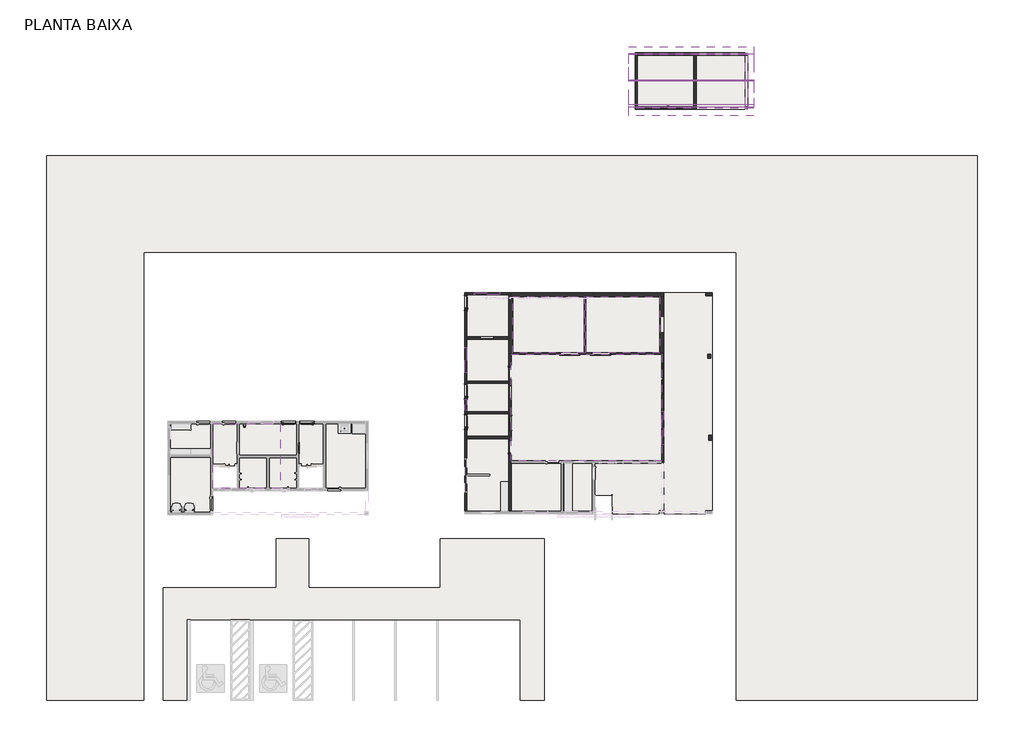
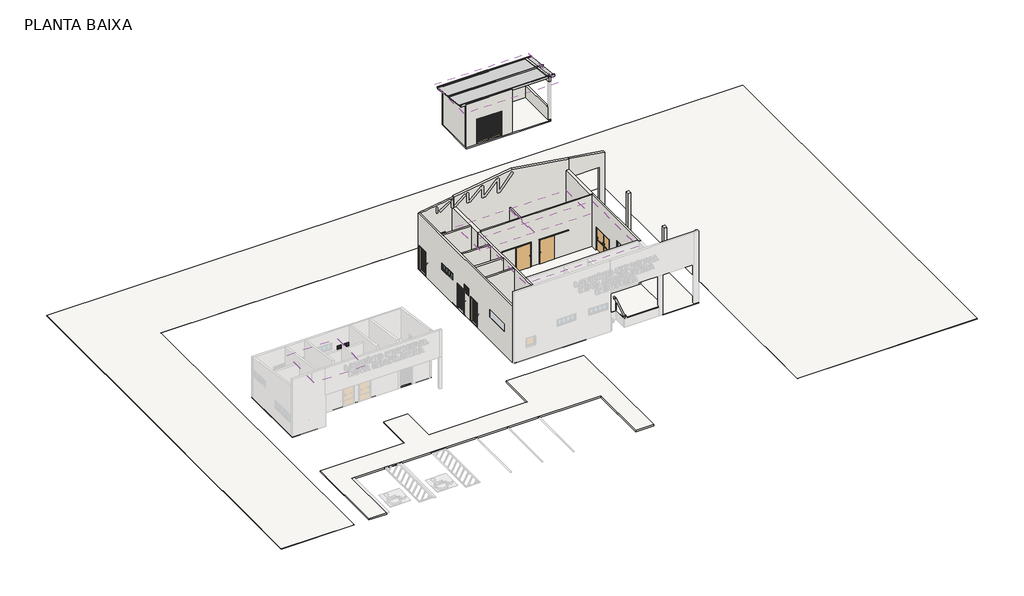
# One storey, part 2 of 4: 23 walls, 16 doors, 8 slabs, 4 coverings, 4 windows, 3 members, 3 plates, 1 roof.
"""IFC4 building model written with IfcOpenShell, lengths in millimetres."""

from ifc_helpers import new_model, si_unit, frame, origin, place, context, project, spatial, polyline, outline, extrude, faceted_brep, transform, mapped, element, save
from components import door_47245ebf, door_ed2cd844, door_5e27b62a, door_2b51e286, door_abbd5f23, door_200x210_7cfe1a8b, door_200x210_8054a352, door_4_panel_stacking_4a8a8c32, fr_pvc_panneau_plein_103_x_210_100_2_cbfb355a, fr_pvc_panneau_plein_63_x_210_60_2_2560e39d, fr_pvc_panneau_plein_83_x_210_80_e6f7e799, rectangular_mullion_acc46a1c, rectangular_mullion_ec073536, rectangular_mullion_255870b8, empty_system_panel_empty_df440034, empty_system_panel_empty_db0e6698, empty_system_panel_empty_3e2f795e, window_3d062184, window_6059a996, window_b42098c8

model = new_model("IFC4")

# Units and contexts
model_context = context("Model", 3, world=origin())
ifc_project = project(units=[si_unit("LENGTHUNIT", "METRE", prefix="MILLI")], contexts=[model_context])

# Site, building, storey
site = spatial("IfcSite", under=ifc_project)
building = spatial("IfcBuilding", under=site)
storey = spatial("IfcBuildingStorey", under=building, Name="PLANTA BAIXA", Elevation=150.0)

# Coverings
placement = place(None, origin())
element("IfcCovering", 1, ObjectType=". FORRO ISOPAINEL", at=placement, inside=storey, context=model_context, shape_type="SweptSolid", body=[
    extrude(outline(polyline([(-923.1798161, 6018.8563425), (-923.1798161, 9518.8563425), (3525.8682467, 9518.8563425), (3525.8682467, 6018.8563425), (-923.1798161, 6018.8563425)])), frame((0.0, 0.0, 2950.0), z_axis=(0.0, 0.0, 1.0), x_axis=(1.0, 0.0, 0.0)), (0.0, 0.0, 1.0), 100.0),
])
element("IfcCovering", 2, ObjectType=". FORRO ISOPAINEL", at=placement, inside=storey, context=model_context, shape_type="SweptSolid", body=[
    extrude(outline(polyline([(3625.8682467, 6018.8563425), (3625.8682467, 9518.8563425), (8225.8682467, 9518.8563425), (8225.8682467, 6018.8563425), (3625.8682467, 6018.8563425)])), frame((0.0, 0.0, 2950.0), z_axis=(0.0, 0.0, 1.0), x_axis=(1.0, 0.0, 0.0)), (0.0, 0.0, 1.0), 100.0),
])
element("IfcCovering", 3, ObjectType="FORRO PVC", at=placement, inside=storey, context=model_context, shape_type="SweptSolid", body=[
    extrude(outline(polyline([(-1173.1798161, 7016.7588383), (-3773.1798161, 7016.7588383), (-3773.1798161, 9618.8563425), (-1173.1798161, 9618.8563425), (-1173.1798161, 7016.7588383)])), frame((0.0, 0.0, 4150.0), z_axis=(0.0, 0.0, 1.0), x_axis=(1.0, 0.0, 0.0)), (0.0, 0.0, 1.0), 37.0),
    extrude(outline(polyline([(-1173.1798161, 4266.3563425), (-3773.1798161, 4266.3563425), (-3773.1798161, 6866.7588383), (-1173.1798161, 6866.7588383), (-1173.1798161, 4266.3563425)])), frame((0.0, 0.0, 4150.0), z_axis=(0.0, 0.0, 1.0), x_axis=(1.0, 0.0, 0.0)), (0.0, 0.0, 1.0), 37.0),
    extrude(outline(polyline([(-1173.1798161, 2366.7588383), (-3773.1798161, 2366.7588383), (-3773.1798161, 4116.3563425), (-1173.1798161, 4116.3563425), (-1173.1798161, 2366.7588383)])), frame((0.0, 0.0, 4150.0), z_axis=(0.0, 0.0, 1.0), x_axis=(1.0, 0.0, 0.0)), (0.0, 0.0, 1.0), 37.0),
    extrude(outline(polyline([(-1173.1798161, 816.7588383), (-3773.1798161, 816.7588383), (-3773.1798161, 2216.7588383), (-1173.1798161, 2216.7588383), (-1173.1798161, 816.7588383)])), frame((0.0, 0.0, 4150.0), z_axis=(0.0, 0.0, 1.0), x_axis=(1.0, 0.0, 0.0)), (0.0, 0.0, 1.0), 37.0),
    extrude(outline(polyline([(-3773.1798161, 666.7588383), (-1173.1798161, 666.7588383), (-1173.1798161, -3838.2411617), (-3773.1798161, -3838.2411617), (-3773.1798161, 666.7588383)])), frame((0.0, 0.0, 4150.0), z_axis=(0.0, 0.0, 1.0), x_axis=(1.0, 0.0, 0.0)), (0.0, 0.0, 1.0), 37.0),
    extrude(outline(polyline([(2076.8201839, -3838.2411617), (-1023.1798161, -3838.2411617), (-1023.1798161, -843.2411617), (2076.8201839, -843.2411617), (2076.8201839, -3838.2411617)])), frame((0.0, 0.0, 4150.0), z_axis=(0.0, 0.0, 1.0), x_axis=(1.0, 0.0, 0.0)), (0.0, 0.0, 1.0), 37.0),
    extrude(outline(polyline([(4026.8201839, -843.2411617), (4026.8201839, -3838.2411617), (2226.8201839, -3838.2411617), (2226.8201839, -843.2411617), (4026.8201839, -843.2411617)])), frame((0.0, 0.0, 4150.0), z_axis=(0.0, 0.0, 1.0), x_axis=(1.0, 0.0, 0.0)), (0.0, 0.0, 1.0), 37.0),
    extrude(outline(polyline([(8325.8682467, -693.2411617), (-1023.1798161, -693.2411617), (-1023.1798161, 5918.8563425), (8325.8682467, 5918.8563425), (8325.8682467, -693.2411617)])), frame((0.0, 0.0, 4150.0), z_axis=(0.0, 0.0, 1.0), x_axis=(1.0, 0.0, 0.0)), (0.0, 0.0, 1.0), 37.0),
    extrude(outline(polyline([(8325.8682467, -843.2411617), (8325.8682467, -3838.2411617), (4176.8201839, -3838.2411617), (4176.8201839, -843.2411617), (8325.8682467, -843.2411617)])), frame((0.0, 0.0, 4150.0), z_axis=(0.0, 0.0, 1.0), x_axis=(1.0, 0.0, 0.0)), (0.0, 0.0, 1.0), 37.0),
])
element("IfcCovering", 4, ObjectType="FORRO PVC", at=placement, inside=storey, context=model_context, shape_type="SweptSolid", body=[
    extrude(outline(polyline([(-12573.1798161, -2403.2411617), (-12573.1798161, 1600.6280604), (-10073.1798161, 1600.6280604), (-10073.1798161, -2403.2411617), (-12573.1798161, -2403.2411617)])), frame((0.0, 0.0, 2950.0), z_axis=(0.0, 0.0, 1.0), x_axis=(1.0, 0.0, 0.0)), (0.0, 0.0, 1.0), 37.0),
    extrude(outline(polyline([(-15223.1798161, 1600.6280604), (-12723.1798161, 1600.6280604), (-12723.1798161, -2403.2411617), (-15223.1798161, -2403.2411617), (-15223.1798161, 1600.6280604)])), frame((0.0, 0.0, 2950.0), z_axis=(0.0, 0.0, 1.0), x_axis=(1.0, 0.0, 0.0)), (0.0, 0.0, 1.0), 37.0),
    extrude(outline(polyline([(-19573.1798161, -2403.2411617), (-19573.1798161, 1600.6280604), (-15373.1798161, 1600.6280604), (-15373.1798161, -2403.2411617), (-19573.1798161, -2403.2411617)])), frame((0.0, 0.0, 2950.0), z_axis=(0.0, 0.0, 1.0), x_axis=(1.0, 0.0, 0.0)), (0.0, 0.0, 1.0), 37.0),
    extrude(outline(polyline([(-22223.1798161, 1600.6280604), (-19723.1798161, 1600.6280604), (-19723.1798161, -3903.2411617), (-22223.1798161, -3903.2411617), (-22223.1798161, 1600.6280604)])), frame((0.0, 0.0, 2950.0), z_axis=(0.0, 0.0, 1.0), x_axis=(1.0, 0.0, 0.0)), (0.0, 0.0, 1.0), 37.0),
    extrude(outline(polyline([(-19573.1798161, -2553.2411617), (-12723.1798161, -2553.2411617), (-9923.1798161, -2553.2411617), (-9923.1798161, -3903.2411617), (-19573.1798161, -3903.2411617), (-19573.1798161, -2553.2411617)])), frame((0.0, 0.0, 2950.0), z_axis=(0.0, 0.0, 1.0), x_axis=(1.0, 0.0, 0.0)), (0.0, 0.0, 1.0), 37.0),
])

# Doors
door_shape = door_47245ebf(model_context)
element("IfcDoor", 5, ObjectType="PORTA VENEZIANA PARAMÉTRICA : VENEZIANA 80X210", at=placement, inside=storey, context=model_context, shape_type="MappedRepresentation", body=[
    mapped(door_shape, transform((-3848.1798161, 1716.7588383, 150.0), x_axis=(0.0, -1.0, 0.0), y_axis=(1.0, 0.0, 0.0), z_axis=(0.0, 0.0, 1.0))),
])
element("IfcDoor", 6, ObjectType="PORTA VENEZIANA PARAMÉTRICA : VENEZIANA 80X210", at=placement, inside=storey, context=model_context, shape_type="MappedRepresentation", body=[
    mapped(door_shape, transform((-3848.1798161, 3616.3563425, 150.0), x_axis=(0.0, -1.0, 0.0), y_axis=(1.0, 0.0, 0.0), z_axis=(0.0, 0.0, 1.0))),
])
element("IfcDoor", 7, ObjectType="PORTA VENEZIANA PARAMÉTRICA : VENEZIANA 80X210", at=placement, inside=storey, context=model_context, shape_type="MappedRepresentation", body=[
    mapped(door_shape, transform((-3848.1798161, 9118.8563425, 150.0), x_axis=(0.0, -1.0, 0.0), y_axis=(1.0, 0.0, 0.0), z_axis=(0.0, 0.0, 1.0))),
])
door_2_shape = door_ed2cd844(model_context)
element("IfcDoor", 8, ObjectType="PORTA VENEZIANA PARAMÉTRICA : .VENEZIANA 90X210 2", at=placement, inside=storey, context=model_context, shape_type="MappedRepresentation", body=[
    mapped(door_2_shape, transform((-1098.1798161, 116.7588383, 150.0), x_axis=(0.0, -1.0, 0.0), y_axis=(1.0, 0.0, 0.0), z_axis=(0.0, 0.0, 1.0))),
])
element("IfcDoor", 9, ObjectType="PORTA VENEZIANA PARAMÉTRICA : .VENEZIANA 90X210 2", at=placement, inside=storey, context=model_context, shape_type="MappedRepresentation", body=[
    mapped(door_shape, transform((-1098.1798161, 4816.7588383, 150.0), x_axis=(0.0, 1.0, 0.0), y_axis=(-1.0, 0.0, 0.0), z_axis=(0.0, 0.0, 1.0))),
])
door_3_shape = door_5e27b62a(model_context)
element("IfcDoor", 10, ObjectType="M_Porta-De_Correr-Pormade-Porta_Lisa : .porta correr isopainel", at=placement, inside=storey, context=model_context, shape_type="MappedRepresentation", body=[
    mapped(door_3_shape, transform((4555.8682467, 5968.8563425, 150.0), x_axis=(-1.0, 0.0, 0.0), y_axis=(0.0, -1.0, 0.0), z_axis=(0.0, 0.0, 1.0))),
])
door_4_shape = door_2b51e286(model_context)
element("IfcDoor", 11, ObjectType="M_Porta-De_Correr-Pormade-Porta_Lisa : .porta correr isopainel", at=placement, inside=storey, context=model_context, shape_type="MappedRepresentation", body=[
    mapped(door_4_shape, transform((2595.8682467, 5968.8563425, 150.0), x_axis=(1.0, 0.0, 0.0), y_axis=(0.0, 1.0, 0.0), z_axis=(0.0, 0.0, 1.0))),
])
door_5_shape = door_abbd5f23(model_context)
element("IfcDoor", 12, ObjectType="Porta-Passagem-Única-Nivelada-Dupla_Agindo : Porta-Passagem-Única-Nivelada-Dupla_Agindo", at=placement, inside=storey, context=model_context, shape_type="MappedRepresentation", body=[
    mapped(door_5_shape, transform((-1091.8298161, 1666.7588383, 150.0), x_axis=(0.0, 1.0, 0.0), y_axis=(-1.0, 0.0, 0.0), z_axis=(0.0, 0.0, 1.0))),
])
element("IfcDoor", 13, ObjectType="PORTA VENEZIANA PARAMÉTRICA : VENEZIANA 80X210", at=placement, inside=storey, context=model_context, shape_type="MappedRepresentation", body=[
    mapped(door_shape, transform((-14873.1798161, 1675.6280604, 150.0), x_axis=(-1.0, 0.0, 0.0), y_axis=(0.0, -1.0, 0.0), z_axis=(0.0, 0.0, 1.0))),
])
element("IfcDoor", 14, ObjectType="PORTA VENEZIANA PARAMÉTRICA : VENEZIANA 80X210", at=placement, inside=storey, context=model_context, shape_type="MappedRepresentation", body=[
    mapped(door_2_shape, transform((-13723.1798161, 1675.6280604, 150.0), x_axis=(1.0, 0.0, 0.0), y_axis=(0.0, 1.0, 0.0), z_axis=(0.0, 0.0, 1.0))),
])
door_200x210_shape = door_200x210_7cfe1a8b(model_context)
door_200x210_2_shape = door_200x210_8054a352(model_context)
element("IfcDoor", 15, ObjectType="Porta Corta Fogo 2 Folhas : 200x210", at=placement, inside=storey, context=model_context, shape_type="MappedRepresentation", body=[
    mapped(door_200x210_shape, transform((8400.8682467, 4418.8563425, 75.0), x_axis=(0.0, 1.0, 0.0), y_axis=(-1.0, 0.0, 0.0), z_axis=(0.0, 0.0, 1.0))),
    mapped(door_200x210_2_shape, transform((8400.8682467, 4418.8563425, 75.0), x_axis=(0.0, 1.0, 0.0), y_axis=(-1.0, 0.0, 0.0), z_axis=(0.0, 0.0, 1.0))),
])
door_4_panel_stacking_shape = door_4_panel_stacking_4a8a8c32(model_context)
element("IfcDoor", 16, ObjectType="PORTA VENEZIANA 2 PAINÉIS ABRIR PARAMÉTRICA1 : 4 Panel Stacking", at=placement, inside=storey, context=model_context, shape_type="MappedRepresentation", body=[
    mapped(door_4_panel_stacking_shape, transform((8578.4025194, 21243.848405, 230.0), x_axis=(1.0, 0.0, 0.0), y_axis=(0.0, 1.0, 0.0), z_axis=(0.0, 0.0, 1.0))),
])
fr_pvc_panneau_plein_103_x_210_100_2_shape = fr_pvc_panneau_plein_103_x_210_100_2_cbfb355a(model_context)
element("IfcDoor", 17, ObjectType="FR_PVC Panneau Plein : 103 x 210 - (100) 2", at=placement, inside=storey, context=model_context, shape_type="MappedRepresentation", body=[
    mapped(fr_pvc_panneau_plein_103_x_210_100_2_shape, transform((8354.661817, 7768.8563425, 1250.0), x_axis=(0.0, -1.0, 0.0), y_axis=(1.0, 0.0, 0.0), z_axis=(0.0, 0.0, 1.0))),
])
fr_pvc_panneau_plein_63_x_210_60_2_shape = fr_pvc_panneau_plein_63_x_210_60_2_2560e39d(model_context)
element("IfcDoor", 18, ObjectType="FR_PVC Panneau Plein : 63 x 210 - (60) 2", at=placement, inside=storey, context=model_context, shape_type="MappedRepresentation", body=[
    mapped(fr_pvc_panneau_plein_63_x_210_60_2_shape, transform((-14301.9733863, 96.7588383, 950.0), x_axis=(0.0, 1.0, 0.0), y_axis=(-1.0, 0.0, 0.0), z_axis=(0.0, 0.0, 1.0))),
])
fr_pvc_panneau_plein_83_x_210_80_shape = fr_pvc_panneau_plein_83_x_210_80_e6f7e799(model_context)
element("IfcDoor", 19, ObjectType="FR_PVC Panneau Plein : 83 x 210 - (80)", at=placement, inside=storey, context=model_context, shape_type="MappedRepresentation", body=[
    mapped(fr_pvc_panneau_plein_83_x_210_80_shape, transform((-2523.1798161, 6945.5524085, 1150.0), x_axis=(1.0, 0.0, 0.0), y_axis=(0.0, 1.0, 0.0), z_axis=(0.0, 0.0, 1.0))),
])
element("IfcDoor", 20, ObjectType="FR_PVC Panneau Plein : 83 x 210 - (80)", at=placement, inside=storey, context=model_context, shape_type="MappedRepresentation", body=[
    mapped(fr_pvc_panneau_plein_83_x_210_80_shape, transform((-1094.3862459, 3566.3563425, 1150.0), x_axis=(0.0, -1.0, 0.0), y_axis=(1.0, 0.0, 0.0), z_axis=(0.0, 0.0, 1.0))),
])

# Members
rectangular_mullion_shape = rectangular_mullion_acc46a1c(model_context)
element("IfcMember", 21, ObjectType="Rectangular Mullion : CONTRA-FRECHAL 6X15 cm", at=placement, inside=storey, context=model_context, shape_type="MappedRepresentation", body=[
    mapped(rectangular_mullion_shape, transform((6278.4025194, 24593.8563425, 3449.4978015), x_axis=(0.0, 0.9928768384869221, -0.11914522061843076), y_axis=(0.0, -0.11914522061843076, -0.9928768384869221), z_axis=(-1.0, 0.0, 0.0))),
])
rectangular_mullion_2_shape = rectangular_mullion_ec073536(model_context)
element("IfcMember", 22, ObjectType="Rectangular Mullion : TERÇA APARELHADA 6X15 cm", at=placement, inside=storey, context=model_context, shape_type="MappedRepresentation", body=[
    mapped(rectangular_mullion_2_shape, transform((14078.4025194, 21243.8563425, 3851.4978015), x_axis=(0.0, -0.9928768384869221, 0.11914522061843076), y_axis=(0.0, -0.11914522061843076, -0.9928768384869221), z_axis=(1.0, 0.0, 0.0))),
])
rectangular_mullion_3_shape = rectangular_mullion_255870b8(model_context)
element("IfcMember", 23, ObjectType="Rectangular Mullion : TERÇA APARELHADA 6X15 cm", at=placement, inside=storey, context=model_context, shape_type="MappedRepresentation", body=[
    mapped(rectangular_mullion_3_shape, transform((14078.4025194, 22955.609559, 3646.0874155), x_axis=(0.0, -0.9928768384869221, 0.11914522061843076), y_axis=(0.0, -0.11914522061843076, -0.9928768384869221), z_axis=(1.0, 0.0, 0.0))),
])

# Plates
empty_system_panel_empty_shape = empty_system_panel_empty_df440034(model_context)
element("IfcPlate", 24, ObjectType="Empty System Panel : Empty", at=placement, inside=storey, context=model_context, shape_type="MappedRepresentation", body=[
    mapped(empty_system_panel_empty_shape, transform((10178.4025194, 24593.8563425, 3449.4978015), x_axis=(-1.0, 0.0, 0.0), y_axis=(0.0, -0.11914522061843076, -0.9928768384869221), z_axis=(0.0, -0.9928768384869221, 0.11914522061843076))),
])
empty_system_panel_empty_2_shape = empty_system_panel_empty_db0e6698(model_context)
element("IfcPlate", 25, ObjectType="Empty System Panel : Empty", at=placement, inside=storey, context=model_context, shape_type="MappedRepresentation", body=[
    mapped(empty_system_panel_empty_2_shape, transform((10178.4025194, 22925.8232539, 3649.6617721), x_axis=(-1.0, 0.0, 0.0), y_axis=(0.0, -0.11914522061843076, -0.9928768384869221), z_axis=(0.0, -0.9928768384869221, 0.11914522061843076))),
])
empty_system_panel_empty_3_shape = empty_system_panel_empty_3e2f795e(model_context)
element("IfcPlate", 26, ObjectType="Empty System Panel : Empty", at=placement, inside=storey, context=model_context, shape_type="MappedRepresentation", body=[
    mapped(empty_system_panel_empty_3_shape, transform((10178.4025194, 21466.2943013, 3824.8052464), x_axis=(-1.0, 0.0, 0.0), y_axis=(0.0, -0.11914522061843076, -0.9928768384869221), z_axis=(0.0, -0.9928768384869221, 0.11914522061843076))),
])

# Roof
element("IfcRoof", 27, ObjectType="TELHA FIBROCIMENTO", at=placement, inside=storey, context=model_context, shape_type="SweptSolid", body=[
    extrude(outline(polyline([(20768.8563425, 4116.5021985), (25068.8563425, 3600.5021985), (25068.8563425, 3530.0), (20768.8563425, 4046.0), (20768.8563425, 4116.5021985)])), frame((6278.4025194, 0.0, 0.0), z_axis=(1.0, 0.0, 0.0), x_axis=(0.0, 1.0, 0.0)), (0.0, 0.0, 1.0), 7800.0),
])

# Slabs
element("IfcSlab", 28, ObjectType=".brita  3 cm 2", at=placement, inside=storey, context=model_context, shape_type="SweptSolid", body=[
    extrude(outline(polyline([(12976.8201839, 12268.8563425), (-23873.1798161, 12268.8563425), (-23873.1798161, -15581.0235359), (-29923.5222276, -15581.0235359), (-29923.5222276, 18268.8563425), (27976.8201839, 18268.8563425), (27976.8201839, -15581.0235359), (12976.8201839, -15581.0235359), (12976.8201839, 12268.8563425)])), frame((0.0, 0.0, -70.0), z_axis=(0.0, 0.0, 1.0), x_axis=(1.0, 0.0, 0.0)), (0.0, 0.0, 1.0), 20.0),
])
element("IfcSlab", 29, ObjectType="CALÇADA CONCRETO DESEMPENADO", at=placement, inside=storey, context=model_context, shape_type="SweptSolid", body=[
    extrude(outline(polyline([(-15623.1798161, -8581.0235359), (-15623.1798161, -5533.2411617), (-13623.1798161, -5533.2411617), (-13623.1798161, -8581.0235359), (-5423.1798161, -8581.0235359), (-5423.1798161, -5533.2411617), (1034.1777724, -5533.2411617), (1034.1777724, -15581.0235359), (-465.8222276, -15581.0235359), (-465.8222276, -10581.0235359), (-21173.0222276, -10581.0235359), (-21173.0222276, -15581.0235359), (-22673.0222276, -15581.0235359), (-22673.0222276, -8581.0235359), (-15623.1798161, -8581.0235359)])), frame((0.0, 0.0, -50.0), z_axis=(0.0, 0.0, 1.0), x_axis=(1.0, 0.0, 0.0)), (0.0, 0.0, 1.0), 100.0),
])
element("IfcSlab", 30, ObjectType="PISO  5 cm", at=placement, inside=storey, context=model_context, shape_type="SweptSolid", body=[
    extrude(outline(polyline([(-9923.1798161, -2553.2411617), (-12723.1798161, -2553.2411617), (-12723.1798161, -1003.2411617), (-14223.1798161, -1003.2411617), (-14223.1798161, -2553.2411617), (-18073.1798161, -2553.2411617), (-18073.1798161, -1003.2411617), (-19573.1798161, -1003.2411617), (-19573.1798161, -4053.2411617), (-22373.1798161, -4053.2411617), (-22373.1798161, 1750.6280604), (-9923.1798161, 1750.6280604), (-9923.1798161, -2553.2411617)])), frame((0.0, 0.0, 100.0), z_axis=(0.0, 0.0, 1.0), x_axis=(1.0, 0.0, 0.0)), (0.0, 0.0, 1.0), 50.0),
])
element("IfcSlab", 31, ObjectType=".PISO GRANILITE  5 cm 2", at=placement, inside=storey, context=model_context, shape_type="SweptSolid", body=[
    extrude(outline(polyline([(4176.8201839, -843.2411617), (8475.8682467, -843.2411617), (8475.8682467, -3788.2411617), (8175.8682467, -3788.2411617), (8175.8682467, -3988.2411617), (5276.8201839, -3988.2411617), (5276.8201839, -2833.2411617), (4176.8201839, -2833.2411617), (4176.8201839, -843.2411617)])), frame((0.0, 0.0, 850.0), z_axis=(0.0, 0.0, 1.0), x_axis=(1.0, 0.0, 0.0)), (0.0, 0.0, 1.0), 50.0),
])
element("IfcSlab", 32, ObjectType=".PISO GRANILITE  5 cm 2", at=placement, inside=storey, context=model_context, shape_type="SweptSolid", body=[
    extrude(outline(polyline([(11476.8201839, 9768.8563425), (11476.8201839, -3988.2411617), (8475.8682467, -3988.2411617), (8475.8682467, 9768.8563425), (11476.8201839, 9768.8563425)])), frame((0.0, 0.0, 80.0), z_axis=(0.0, 0.0, 1.0), x_axis=(1.0, 0.0, 0.0)), (0.0, 0.0, 1.0), 50.0),
])
element("IfcSlab", 33, ObjectType=".PISO GRANILITE  5 cm 2", at=placement, inside=storey, context=model_context, shape_type="SweptSolid", body=[
    extrude(outline(polyline([(2226.8201839, -843.2411617), (4026.8201839, -843.2411617), (4026.8201839, -3838.2411617), (2226.8201839, -3838.2411617), (2226.8201839, -843.2411617)])), frame((0.0, 0.0, 850.0), z_axis=(0.0, 0.0, 1.0), x_axis=(1.0, 0.0, 0.0)), (0.0, 0.0, 1.0), 50.0),
])
element("IfcSlab", 34, ObjectType="Genérico 10 cm", at=placement, inside=storey, context=model_context, shape_type="Brep", body=[
    faceted_brep([(13678.4025194, 24668.8563425, 50.0), (13678.4025194, 21168.8563425, 50.0), (6678.4025194, 21168.8563425, 50.0), (6678.4025194, 24668.8563425, 50.0), (13678.4025194, 24668.8563425, 150.0), (10478.4025194, 24668.8563425, 150.0), (6678.4025194, 24668.8563425, 150.0), (6678.4025194, 24518.8563425, 150.0), (6678.4025194, 21168.8563425, 150.0), (13678.4025194, 21168.8563425, 150.0)], [[[0, 1, 2, 3]], [[4, 5, 6, 7, 8, 9]], [[1, 0, 4, 9]], [[2, 1, 9, 8]], [[3, 2, 8, 7, 6]], [[0, 3, 6, 5, 4]]]),
])
element("IfcSlab", 35, ObjectType=".PISO GRANILITE  5 cm 2", at=placement, inside=storey, context=model_context, shape_type="SweptSolid", body=[
    extrude(outline(polyline([(8475.8682467, 9768.8563425), (8475.8682467, -843.2411617), (2076.8201839, -843.2411617), (2076.8201839, -3988.2411617), (-3923.1798161, -3988.2411617), (-3923.1798161, 9768.8563425), (8475.8682467, 9768.8563425)])), frame((0.0, 0.0, 100.0), z_axis=(0.0, 0.0, 1.0), x_axis=(1.0, 0.0, 0.0)), (0.0, 0.0, 1.0), 50.0),
])

# Walls
element("IfcWall", 36, ObjectType="PAREDE BÁSICA 15 cm REVEST/PINT", at=placement, inside=storey, context=model_context, shape_type="Brep", body=[
    faceted_brep([(-3771.7168639, 9618.8563425, 100.0), (-1173.1798161, 9618.8563425, 100.0), (-1048.1798161, 9618.8563425, 100.0), (-1048.1798161, 9618.8563425, 4700.0), (-1048.1798161, 9618.8563425, 5485.0), (-3771.7168639, 9618.8563425, 5076.4694428), (-1738.1798161, 9618.8563425, 2150.0), (-3308.1798161, 9618.8563425, 2150.0), (-3308.1798161, 9618.8563425, 2720.0), (-1738.1798161, 9618.8563425, 2720.0), (-3771.7168639, 9768.8563425, 100.0), (-3771.7168639, 9768.8563425, 5076.4694428), (-1048.1798161, 9768.8563425, 5485.0), (-1048.1798161, 9768.8563425, 100.0), (-1738.1798161, 9768.8563425, 2150.0), (-1738.1798161, 9768.8563425, 2720.0), (-3308.1798161, 9768.8563425, 2720.0), (-3308.1798161, 9768.8563425, 2150.0)], [[[0, 1, 2, 3, 4, 5], [6, 7, 8, 9]], [[10, 11, 12, 13], [14, 15, 16, 17]], [[2, 1, 0, 10, 13]], [[4, 3, 2, 13, 12]], [[0, 5, 11, 10]], [[15, 14, 6, 9]], [[16, 15, 9, 8]], [[17, 16, 8, 7]], [[14, 17, 7, 6]], [[5, 4, 12, 11]]]),
])
element("IfcWall", 37, ObjectType="PAREDE BÁSICA 15 cm", at=placement, inside=storey, context=model_context, shape_type="Brep", body=[
    faceted_brep([(8475.8682467, 6018.8563425, 4700.0), (8475.8682467, -843.2411617, 4700.0), (8475.8682467, -843.2411617, 3650.0), (8475.8682467, -843.2411617, 850.0), (8475.8682467, -843.2411617, 100.0), (8475.8682467, 3418.8563425, 100.0), (8475.8682467, 3418.8563425, 2250.0), (8475.8682467, 5418.8563425, 2250.0), (8475.8682467, 5418.8563425, 100.0), (8475.8682467, 6018.8563425, 100.0), (8475.8682467, 2377.8075904, 2150.0), (8475.8682467, 307.8075904, 2150.0), (8475.8682467, 307.8075904, 2820.0), (8475.8682467, 2377.8075904, 2820.0), (8325.8682467, -843.2411617, 4700.0), (8325.8682467, -693.2411617, 4700.0), (8325.8682467, 5918.8563425, 4700.0), (8325.8682467, 6018.8563425, 4700.0), (8325.8682467, 6018.8563425, 100.0), (8325.8682467, 5918.8563425, 100.0), (8325.8682467, 5418.8563425, 100.0), (8325.8682467, 5418.8563425, 2250.0), (8325.8682467, 3418.8563425, 2250.0), (8325.8682467, 3418.8563425, 100.0), (8325.8682467, -693.2411617, 100.0), (8325.8682467, -843.2411617, 100.0), (8325.8682467, -843.2411617, 850.0), (8325.8682467, -843.2411617, 3650.0), (8325.8682467, 2377.8075904, 2150.0), (8325.8682467, 2377.8075904, 2820.0), (8325.8682467, 307.8075904, 2820.0), (8325.8682467, 307.8075904, 2150.0)], [[[0, 1, 2, 3, 4, 5, 6, 7, 8, 9], [10, 11, 12, 13]], [[14, 15, 16, 17, 18, 19, 20, 21, 22, 23, 24, 25, 26, 27], [28, 29, 30, 31]], [[4, 25, 24, 23, 5]], [[18, 9, 8, 20, 19]], [[1, 0, 17, 16, 15, 14]], [[29, 28, 10, 13]], [[30, 29, 13, 12]], [[31, 30, 12, 11]], [[28, 31, 11, 10]], [[0, 9, 18, 17]], [[1, 14, 27, 26, 25, 4, 3, 2]], [[7, 21, 20, 8]], [[21, 7, 6, 22]], [[22, 6, 5, 23]]]),
])
element("IfcWall", 38, ObjectType="PAREDE BÁSICA 15 cm", at=placement, inside=storey, context=model_context, shape_type="Brep", body=[
    faceted_brep([(-3773.1798161, -3838.2411617, 100.0), (-3773.1798161, -1633.2411617, 100.0), (-3773.1798161, -1533.2411617, 100.0), (-3773.1798161, 666.7588383, 100.0), (-3773.1798161, 816.7588383, 100.0), (-3773.1798161, 2216.7588383, 100.0), (-3773.1798161, 2366.7588383, 100.0), (-3773.1798161, 4116.3563425, 100.0), (-3773.1798161, 4266.3563425, 100.0), (-3773.1798161, 6866.7588383, 100.0), (-3773.1798161, 7016.7588383, 100.0), (-3773.1798161, 9768.8563425, 100.0), (-3773.1798161, 9768.8563425, 5040.0657477), (-3773.1798161, -3838.2411617, 5040.0657477), (-3773.1798161, 1241.7588383, 130.0), (-3773.1798161, 1241.7588383, 2275.0), (-3773.1798161, 2191.7588383, 2275.0), (-3773.1798161, 2191.7588383, 130.0), (-3773.1798161, 3141.3563425, 130.0), (-3773.1798161, 3141.3563425, 2275.0), (-3773.1798161, 4091.3563425, 2275.0), (-3773.1798161, 4091.3563425, 130.0), (-3773.1798161, -573.2411617, 2150.0), (-3773.1798161, -2643.2411617, 2150.0), (-3773.1798161, -2643.2411617, 2820.0), (-3773.1798161, -573.2411617, 2820.0), (-3773.1798161, 4781.5575904, 2150.0), (-3773.1798161, 4781.5575904, 2720.0), (-3773.1798161, 6351.5575904, 2720.0), (-3773.1798161, 6351.5575904, 2150.0), (-3773.1798161, 3126.5575904, 2150.0), (-3773.1798161, 2456.5575904, 2150.0), (-3773.1798161, 2456.5575904, 2820.0), (-3773.1798161, 3126.5575904, 2820.0), (-3773.1798161, 8643.8563425, 130.0), (-3773.1798161, 8643.8563425, 2275.0), (-3773.1798161, 9593.8563425, 2275.0), (-3773.1798161, 9593.8563425, 130.0), (-3923.1798161, 9768.8563425, 100.0), (-3923.1798161, -3838.2411617, 100.0), (-3923.1798161, -3838.2411617, 5040.0657477), (-3923.1798161, 9768.8563425, 5040.0657477), (-3923.1798161, 1241.7588383, 2275.0), (-3923.1798161, 1241.7588383, 130.0), (-3923.1798161, 2191.7588383, 130.0), (-3923.1798161, 2191.7588383, 2275.0), (-3923.1798161, 3141.3563425, 2275.0), (-3923.1798161, 3141.3563425, 130.0), (-3923.1798161, 4091.3563425, 130.0), (-3923.1798161, 4091.3563425, 2275.0), (-3923.1798161, -573.2411617, 2150.0), (-3923.1798161, -573.2411617, 2820.0), (-3923.1798161, -2643.2411617, 2820.0), (-3923.1798161, -2643.2411617, 2150.0), (-3923.1798161, 4781.5575904, 2150.0), (-3923.1798161, 6351.5575904, 2150.0), (-3923.1798161, 6351.5575904, 2720.0), (-3923.1798161, 4781.5575904, 2720.0), (-3923.1798161, 3126.5575904, 2150.0), (-3923.1798161, 3126.5575904, 2820.0), (-3923.1798161, 2456.5575904, 2820.0), (-3923.1798161, 2456.5575904, 2150.0), (-3923.1798161, 8643.8563425, 2275.0), (-3923.1798161, 8643.8563425, 130.0), (-3923.1798161, 9593.8563425, 130.0), (-3923.1798161, 9593.8563425, 2275.0)], [[[0, 1, 2, 3, 4, 5, 6, 7, 8, 9, 10, 11, 12, 13], [14, 15, 16, 17], [18, 19, 20, 21], [22, 23, 24, 25], [26, 27, 28, 29], [30, 31, 32, 33], [34, 35, 36, 37]], [[38, 39, 40, 41], [42, 43, 44, 45], [46, 47, 48, 49], [50, 51, 52, 53], [54, 55, 56, 57], [58, 59, 60, 61], [62, 63, 64, 65]], [[11, 10, 9, 8, 7, 6, 5, 4, 3, 2, 1, 0, 39, 38]], [[12, 11, 38, 41]], [[13, 12, 41, 40]], [[0, 13, 40, 39]], [[15, 14, 43, 42]], [[16, 15, 42, 45]], [[17, 16, 45, 44]], [[14, 17, 44, 43]], [[19, 18, 47, 46]], [[20, 19, 46, 49]], [[21, 20, 49, 48]], [[18, 21, 48, 47]], [[51, 50, 22, 25]], [[52, 51, 25, 24]], [[53, 52, 24, 23]], [[50, 53, 23, 22]], [[27, 26, 54, 57]], [[28, 27, 57, 56]], [[29, 28, 56, 55]], [[26, 29, 55, 54]], [[59, 58, 30, 33]], [[60, 59, 33, 32]], [[61, 60, 32, 31]], [[58, 61, 31, 30]], [[34, 63, 62, 35]], [[35, 62, 65, 36]], [[63, 34, 37, 64]], [[64, 37, 36, 65]]]),
])
element("IfcWall", 39, ObjectType="PAREDE BÁSICA C/ ISOPAINEL 25 cm 2", at=placement, inside=storey, context=model_context, shape_type="Brep", body=[
    faceted_brep([(-1173.1798161, 9618.8563425, 100.0), (-1173.1798161, 7016.7588383, 100.0), (-1173.1798161, 6866.7588383, 100.0), (-1173.1798161, 5918.8563425, 100.0), (-1173.1798161, 5918.8563425, 4700.0), (-1173.1798161, 6866.7588383, 4700.0), (-1173.1798161, 7016.7588383, 4700.0), (-1173.1798161, 9618.8563425, 4700.0), (-923.1798161, 9518.8563425, 100.0), (-923.1798161, 9518.8563425, 4700.0), (-923.1798161, 6018.8563425, 4700.0), (-923.1798161, 5918.8563425, 4700.0), (-923.1798161, 5918.8563425, 100.0), (-923.1798161, 6018.8563425, 100.0), (-1048.1798161, 9618.8563425, 100.0), (-1048.1798161, 9518.8563425, 100.0), (-1023.1798161, 5918.8563425, 100.0), (-1023.1798161, 5918.8563425, 4700.0), (-1048.1798161, 9518.8563425, 4700.0), (-1048.1798161, 9618.8563425, 4700.0)], [[[0, 1, 2, 3, 4, 5, 6, 7]], [[8, 9, 10, 11, 12, 13]], [[3, 2, 1, 0, 14, 15, 8, 13, 12, 16]], [[7, 6, 5, 4, 17, 11, 10, 9, 18, 19]], [[4, 3, 16, 12, 11, 17]], [[0, 7, 19, 14]], [[19, 18, 15, 14]], [[18, 9, 8, 15]]]),
])
element("IfcWall", 40, ObjectType="PAREDE BÁSICA 15 cm", at=placement, inside=storey, context=model_context, shape_type="SweptSolid", body=[
    extrude(outline(polyline([(-1173.1798161, 666.7588383), (-3773.1798161, 666.7588383), (-3773.1798161, 816.7588383), (-1173.1798161, 816.7588383), (-1173.1798161, 666.7588383)])), frame((0.0, 0.0, 100.0), z_axis=(0.0, 0.0, 1.0), x_axis=(1.0, 0.0, 0.0)), (0.0, 0.0, 1.0), 4600.0),
])
element("IfcWall", 41, ObjectType="PAREDE BÁSICA 15 cm", at=placement, inside=storey, context=model_context, shape_type="SweptSolid", body=[
    extrude(outline(polyline([(-1173.1798161, 2216.7588383), (-3773.1798161, 2216.7588383), (-3773.1798161, 2366.7588383), (-1173.1798161, 2366.7588383), (-1173.1798161, 2216.7588383)])), frame((0.0, 0.0, 100.0), z_axis=(0.0, 0.0, 1.0), x_axis=(1.0, 0.0, 0.0)), (0.0, 0.0, 1.0), 4600.0),
])
element("IfcWall", 42, ObjectType="PAREDE BÁSICA 15 cm", at=placement, inside=storey, context=model_context, shape_type="SweptSolid", body=[
    extrude(outline(polyline([(-1173.1798161, 4116.3563425), (-3773.1798161, 4116.3563425), (-3773.1798161, 4266.3563425), (-1173.1798161, 4266.3563425), (-1173.1798161, 4116.3563425)])), frame((0.0, 0.0, 100.0), z_axis=(0.0, 0.0, 1.0), x_axis=(1.0, 0.0, 0.0)), (0.0, 0.0, 1.0), 4600.0),
])
element("IfcWall", 43, ObjectType="PAREDE BÁSICA 15 cm", at=placement, inside=storey, context=model_context, shape_type="Brep", body=[
    faceted_brep([(-3773.1798161, 6866.7588383, 100.0), (-1173.1798161, 6866.7588383, 100.0), (-1173.1798161, 6866.7588383, 4700.0), (-3773.1798161, 6866.7588383, 4700.0), (-2933.1798161, 6866.7588383, 1150.0), (-2973.1798161, 6866.7588383, 1150.0), (-2973.1798161, 6866.7588383, 2000.0), (-2073.1798161, 6866.7588383, 2000.0), (-2073.1798161, 6866.7588383, 1150.0), (-2113.1798161, 6866.7588383, 1150.0), (-1173.1798161, 7016.7588383, 100.0), (-3773.1798161, 7016.7588383, 100.0), (-3773.1798161, 7016.7588383, 4700.0), (-1173.1798161, 7016.7588383, 4700.0), (-2113.1798161, 7016.7588383, 1960.0), (-2933.1798161, 7016.7588383, 1960.0), (-2933.1798161, 7016.7588383, 1150.0), (-2113.1798161, 7016.7588383, 1150.0), (-2113.1798161, 6916.7588383, 1960.0), (-2933.1798161, 6916.7588383, 1960.0), (-2933.1798161, 6916.7588383, 1150.0), (-2973.1798161, 6916.7588383, 1150.0), (-2073.1798161, 6916.7588383, 1150.0), (-2113.1798161, 6916.7588383, 1150.0), (-2973.1798161, 6916.7588383, 2000.0), (-2073.1798161, 6916.7588383, 2000.0)], [[[0, 1, 2, 3], [4, 5, 6, 7, 8, 9]], [[10, 11, 12, 13], [14, 15, 16, 17]], [[1, 0, 11, 10]], [[3, 2, 13, 12]], [[0, 3, 12, 11]], [[2, 1, 10, 13]], [[18, 19, 15, 14]], [[20, 21, 5, 4, 9, 8, 22, 23, 17, 16]], [[19, 20, 16, 15]], [[23, 18, 14, 17]], [[5, 21, 24, 6]], [[19, 18, 23, 22, 25, 24, 21, 20]], [[6, 24, 25, 7]], [[22, 8, 7, 25]]]),
])
element("IfcWall", 44, ObjectType=".PAREDE BÁSICA 20 cm 2", at=placement, inside=storey, context=model_context, shape_type="SweptSolid", body=[
    extrude(outline(polyline([(11477.1981225, 891.3563425), (11477.1981225, 591.3563425), (11277.1981225, 591.3563425), (11277.1981225, 891.3563425), (11477.1981225, 891.3563425)])), frame((0.0, 0.0, 100.0), z_axis=(0.0, 0.0, 1.0), x_axis=(1.0, 0.0, 0.0)), (0.0, 0.0, 1.0), 3850.0),
])
element("IfcWall", 45, ObjectType=".PAREDE BÁSICA 20 cm 2", at=placement, inside=storey, context=model_context, shape_type="SweptSolid", body=[
    extrude(outline(polyline([(11401.8201839, 5938.8563425), (11401.8201839, 5668.8563425), (11201.8201839, 5668.8563425), (11201.8201839, 5938.8563425), (11401.8201839, 5938.8563425)])), frame((0.0, 0.0, 100.0), z_axis=(0.0, 0.0, 1.0), x_axis=(1.0, 0.0, 0.0)), (0.0, 0.0, 1.0), 3850.0),
])
element("IfcWall", 46, ObjectType=".PAREDE BÁSICA 20 cm 2", at=placement, inside=storey, context=model_context, shape_type="SweptSolid", body=[
    extrude(outline(polyline([(100.0, 11476.8201839), (5138.2251068, 11476.8201839), (5588.3678974, 8475.8682467), (3950.0, 8475.8682467), (3950.0, 11083.1602892), (100.0, 11083.1602892), (100.0, 11476.8201839)])), frame((0.0, 9568.8563425, 0.0), z_axis=(0.0, 1.0, 0.0), x_axis=(0.0, 0.0, 1.0)), (0.0, 0.0, 1.0), 200.0),
])
element("IfcWall", 47, ObjectType="PAREDE ISOPAINEL 10", at=placement, inside=storey, context=model_context, shape_type="Brep", body=[
    faceted_brep([(-923.1798161, 5918.8563425, 100.0), (8325.8682467, 5918.8563425, 100.0), (8325.8682467, 5918.8563425, 4700.0), (-923.1798161, 5918.8563425, 4700.0), (3225.8682467, 5918.8563425, 150.0), (1965.8682467, 5918.8563425, 150.0), (1965.8682467, 5918.8563425, 2310.0), (3225.8682467, 5918.8563425, 2310.0), (3925.8682467, 5918.8563425, 150.0), (3925.8682467, 5918.8563425, 2310.0), (5185.8682467, 5918.8563425, 2310.0), (5185.8682467, 5918.8563425, 150.0), (-923.1798161, 6018.8563425, 100.0), (-923.1798161, 6018.8563425, 4700.0), (8225.8682467, 6018.8563425, 4700.0), (8325.8682467, 6018.8563425, 4700.0), (8325.8682467, 6018.8563425, 100.0), (8225.8682467, 6018.8563425, 100.0), (3625.8682467, 6018.8563425, 100.0), (3525.8682467, 6018.8563425, 100.0), (3225.8682467, 6018.8563425, 150.0), (3225.8682467, 6018.8563425, 2310.0), (1965.8682467, 6018.8563425, 2310.0), (1965.8682467, 6018.8563425, 150.0), (3925.8682467, 6018.8563425, 150.0), (5185.8682467, 6018.8563425, 150.0), (5185.8682467, 6018.8563425, 2310.0), (3925.8682467, 6018.8563425, 2310.0)], [[[0, 1, 2, 3], [4, 5, 6, 7], [8, 9, 10, 11]], [[12, 13, 14, 15, 16, 17, 18, 19], [20, 21, 22, 23], [24, 25, 26, 27]], [[1, 0, 12, 19, 18, 17, 16]], [[3, 2, 15, 14, 13]], [[21, 20, 4, 7]], [[22, 21, 7, 6]], [[23, 22, 6, 5]], [[20, 23, 5, 4]], [[9, 8, 24, 27]], [[10, 9, 27, 26]], [[11, 10, 26, 25]], [[8, 11, 25, 24]], [[0, 3, 13, 12]], [[2, 1, 16, 15]]]),
])
element("IfcWall", 48, ObjectType=".PAREDE ISOPAINEL 10 cm 2", at=placement, inside=storey, context=model_context, shape_type="SweptSolid", body=[
    extrude(outline(polyline([(3525.8682467, 6018.8563425), (3525.8682467, 9518.8563425), (3625.8682467, 9518.8563425), (3625.8682467, 6018.8563425), (3525.8682467, 6018.8563425)])), frame((0.0, 0.0, 100.0), z_axis=(0.0, 0.0, 1.0), x_axis=(1.0, 0.0, 0.0)), (0.0, 0.0, 1.0), 2950.6259683),
])
element("IfcWall", 49, ObjectType=".PAREDE BÁSICA C/ ISOPAINEL P/CIMA 15 cm 2", at=placement, inside=storey, context=model_context, shape_type="Brep", body=[
    faceted_brep([(8475.8682467, 6018.8563425, 100.0), (8475.8682467, 9518.8563425, 100.0), (8475.8682467, 9518.8563425, 4700.0), (8475.8682467, 6018.8563425, 4700.0), (8475.8682467, 7258.8563425, 2060.0), (8475.8682467, 8278.8563425, 2060.0), (8475.8682467, 8278.8563425, 1250.0), (8475.8682467, 7258.8563425, 1250.0), (8225.8682467, 9518.8563425, 100.0), (8225.8682467, 6018.8563425, 100.0), (8225.8682467, 6018.8563425, 4700.0), (8225.8682467, 9518.8563425, 4700.0), (8225.8682467, 8278.8563425, 1250.0), (8225.8682467, 8318.8563425, 1250.0), (8225.8682467, 8318.8563425, 2100.0), (8225.8682467, 7218.8563425, 2100.0), (8225.8682467, 7218.8563425, 1250.0), (8225.8682467, 7258.8563425, 1250.0), (8325.8682467, 6018.8563425, 100.0), (8325.8682467, 6018.8563425, 4700.0), (8275.8682467, 7258.8563425, 2060.0), (8275.8682467, 8278.8563425, 2060.0), (8275.8682467, 8278.8563425, 1250.0), (8275.8682467, 8318.8563425, 1250.0), (8275.8682467, 7218.8563425, 1250.0), (8275.8682467, 7258.8563425, 1250.0), (8275.8682467, 8318.8563425, 2100.0), (8275.8682467, 7218.8563425, 2100.0)], [[[0, 1, 2, 3], [4, 5, 6, 7]], [[8, 9, 10, 11], [12, 13, 14, 15, 16, 17]], [[1, 0, 18, 9, 8]], [[3, 2, 11, 10, 19]], [[20, 21, 5, 4]], [[22, 23, 13, 12, 17, 16, 24, 25, 7, 6]], [[21, 22, 6, 5]], [[25, 20, 4, 7]], [[13, 23, 26, 14]], [[21, 20, 25, 24, 27, 26, 23, 22]], [[14, 26, 27, 15]], [[24, 16, 15, 27]], [[0, 3, 19, 10, 9, 18]], [[1, 8, 11, 2]]]),
])
element("IfcWall", 50, ObjectType="PAREDE BÁSICA C/ ISOPAINEL 25 cm 2", at=placement, inside=storey, context=model_context, shape_type="Brep", body=[
    faceted_brep([(-1048.1798161, 9518.8563425, 100.0), (-923.1798161, 9518.8563425, 100.0), (3525.8682467, 9518.8563425, 100.0), (3625.8682467, 9518.8563425, 100.0), (8225.8682467, 9518.8563425, 100.0), (8475.8682467, 9518.8563425, 100.0), (8475.8682467, 9518.8563425, 4700.0), (8475.8682467, 9518.8563425, 5595.1427906), (3776.8201839, 9518.8563425, 6300.0), (-1048.1798161, 9518.8563425, 5576.25), (-1048.1798161, 9518.8563425, 4700.0), (-1048.1798161, 9768.8563425, 100.0), (-1048.1798161, 9768.8563425, 5485.0), (-1048.1798161, 9768.8563425, 5576.25), (3776.8201839, 9768.8563425, 6300.0), (8475.8682467, 9768.8563425, 5595.1427906), (8475.8682467, 9768.8563425, 5588.3678974), (8475.8682467, 9768.8563425, 3950.0), (8475.8682467, 9768.8563425, 100.0), (-1048.1798161, 9618.8563425, 100.0)], [[[0, 1, 2, 3, 4, 5, 6, 7, 8, 9, 10]], [[11, 12, 13, 14, 15, 16, 17, 18]], [[5, 4, 3, 2, 1, 0, 19, 11, 18]], [[0, 10, 9, 13, 12, 11, 19]], [[5, 18, 17, 16, 15, 7, 6]], [[9, 8, 14, 13]], [[8, 7, 15, 14]]]),
])
element("IfcWall", 51, ObjectType="PAREDE BÁSICA 15 cm", at=placement, inside=storey, context=model_context, shape_type="Brep", body=[
    faceted_brep([(-1173.1798161, 5918.8563425, 100.0), (-1173.1798161, 4266.3563425, 100.0), (-1173.1798161, 4116.3563425, 100.0), (-1173.1798161, 2366.7588383, 100.0), (-1173.1798161, 2216.7588383, 100.0), (-1173.1798161, 816.7588383, 100.0), (-1173.1798161, 666.7588383, 100.0), (-1173.1798161, -3838.2411617, 100.0), (-1173.1798161, -3838.2411617, 4700.0), (-1173.1798161, 666.7588383, 4700.0), (-1173.1798161, 816.7588383, 4700.0), (-1173.1798161, 2216.7588383, 4700.0), (-1173.1798161, 2366.7588383, 4700.0), (-1173.1798161, 4116.3563425, 4700.0), (-1173.1798161, 4266.3563425, 4700.0), (-1173.1798161, 5918.8563425, 4700.0), (-1173.1798161, 4341.7588383, 130.0), (-1173.1798161, 5291.7588383, 130.0), (-1173.1798161, 5291.7588383, 2275.0), (-1173.1798161, 4341.7588383, 2275.0), (-1173.1798161, -358.2411617, 130.0), (-1173.1798161, 591.7588383, 130.0), (-1173.1798161, 591.7588383, 2275.0), (-1173.1798161, -358.2411617, 2275.0), (-1173.1798161, 2166.7588383, 150.0), (-1173.1798161, 2166.7588383, 2350.0), (-1173.1798161, 1166.7588383, 2350.0), (-1173.1798161, 1166.7588383, 150.0), (-1173.1798161, 3976.3563425, 1150.0), (-1173.1798161, 4016.3563425, 1150.0), (-1173.1798161, 4016.3563425, 2000.0), (-1173.1798161, 3116.3563425, 2000.0), (-1173.1798161, 3116.3563425, 1150.0), (-1173.1798161, 3156.3563425, 1150.0), (-1023.1798161, -3838.2411617, 100.0), (-1023.1798161, -843.2411617, 100.0), (-1023.1798161, -693.2411617, 100.0), (-1023.1798161, 5918.8563425, 100.0), (-1023.1798161, 5918.8563425, 4700.0), (-1023.1798161, -693.2411617, 4700.0), (-1023.1798161, -843.2411617, 4700.0), (-1023.1798161, -3838.2411617, 4700.0), (-1023.1798161, 5291.7588383, 130.0), (-1023.1798161, 4341.7588383, 130.0), (-1023.1798161, 4341.7588383, 2275.0), (-1023.1798161, 5291.7588383, 2275.0), (-1023.1798161, 591.7588383, 130.0), (-1023.1798161, -358.2411617, 130.0), (-1023.1798161, -358.2411617, 2275.0), (-1023.1798161, 591.7588383, 2275.0), (-1023.1798161, 2166.7588383, 2350.0), (-1023.1798161, 2166.7588383, 150.0), (-1023.1798161, 1166.7588383, 150.0), (-1023.1798161, 1166.7588383, 2350.0), (-1023.1798161, 3156.3563425, 1960.0), (-1023.1798161, 3976.3563425, 1960.0), (-1023.1798161, 3976.3563425, 1150.0), (-1023.1798161, 3156.3563425, 1150.0), (-1123.1798161, 3156.3563425, 1960.0), (-1123.1798161, 3976.3563425, 1960.0), (-1123.1798161, 3976.3563425, 1150.0), (-1123.1798161, 4016.3563425, 1150.0), (-1123.1798161, 3116.3563425, 1150.0), (-1123.1798161, 3156.3563425, 1150.0), (-1123.1798161, 4016.3563425, 2000.0), (-1123.1798161, 3116.3563425, 2000.0)], [[[0, 1, 2, 3, 4, 5, 6, 7, 8, 9, 10, 11, 12, 13, 14, 15], [16, 17, 18, 19], [20, 21, 22, 23], [24, 25, 26, 27], [28, 29, 30, 31, 32, 33]], [[34, 35, 36, 37, 38, 39, 40, 41], [42, 43, 44, 45], [46, 47, 48, 49], [50, 51, 52, 53], [54, 55, 56, 57]], [[7, 6, 5, 4, 3, 2, 1, 0, 37, 36, 35, 34]], [[15, 14, 13, 12, 11, 10, 9, 8, 41, 40, 39, 38]], [[8, 7, 34, 41]], [[17, 16, 43, 42]], [[16, 19, 44, 43]], [[19, 18, 45, 44]], [[18, 17, 42, 45]], [[47, 46, 21, 20]], [[46, 49, 22, 21]], [[49, 48, 23, 22]], [[48, 47, 20, 23]], [[0, 15, 38, 37]], [[25, 24, 51, 50]], [[26, 25, 50, 53]], [[27, 26, 53, 52]], [[24, 27, 52, 51]], [[58, 59, 55, 54]], [[60, 61, 29, 28, 33, 32, 62, 63, 57, 56]], [[59, 60, 56, 55]], [[63, 58, 54, 57]], [[29, 61, 64, 30]], [[59, 58, 63, 62, 65, 64, 61, 60]], [[30, 64, 65, 31]], [[62, 32, 31, 65]]]),
])
element("IfcWall", 52, ObjectType="PAREDE BÁSICA 15 cm", at=placement, inside=storey, context=model_context, shape_type="Brep", body=[
    faceted_brep([(6678.4025194, 24518.8563425, 150.0), (6828.4025194, 24518.8563425, 150.0), (10328.4025194, 24518.8563425, 150.0), (10478.4025194, 24518.8563425, 150.0), (10478.4025194, 24518.8563425, 1250.0), (10478.4025194, 24518.8563425, 3458.4978015), (10478.4025194, 24518.8563425, 3558.5717905), (6678.4025194, 24518.8563425, 3558.5717905), (6678.4025194, 24518.8563425, 3458.4978015), (6678.4025194, 24668.8563425, 150.0), (6678.4025194, 24668.8563425, 3558.5717905), (10478.4025194, 24668.8563425, 3558.5717905), (10478.4025194, 24668.8563425, 1250.0), (10478.4025194, 24668.8563425, 150.0)], [[[0, 1, 2, 3, 4, 5, 6, 7, 8]], [[9, 10, 11, 12, 13]], [[3, 2, 1, 0, 9, 13]], [[7, 6, 11, 10]], [[0, 8, 7, 10, 9]], [[3, 13, 12, 11, 6, 5, 4]]]),
])
element("IfcWall", 53, ObjectType="PAREDE BÁSICA 15 cm", at=placement, inside=storey, context=model_context, shape_type="SweptSolid", body=[
    extrude(outline(polyline([(21318.8563425, 150.0), (21318.8563425, 3842.4978015), (24518.8563425, 3458.4978015), (24518.8563425, 150.0), (21318.8563425, 150.0)])), frame((6678.4025194, 0.0, 0.0), z_axis=(1.0, 0.0, 0.0), x_axis=(0.0, 1.0, 0.0)), (0.0, 0.0, 1.0), 150.0),
])
element("IfcWall", 54, ObjectType="PAREDE BÁSICA 15 cm", at=placement, inside=storey, context=model_context, shape_type="Brep", body=[
    faceted_brep([(13528.4025194, 24668.8563425, 150.0), (13528.4025194, 24518.8563425, 150.0), (13528.4025194, 21168.8563425, 150.0), (13528.4025194, 21168.8563425, 230.0), (13528.4025194, 21318.8563425, 230.0), (13528.4025194, 21318.8563425, 1250.0), (13528.4025194, 24518.8563425, 1250.0), (13528.4025194, 24518.8563425, 230.0), (13528.4025194, 24668.8563425, 230.0), (13678.4025194, 21168.8563425, 150.0), (13678.4025194, 24668.8563425, 150.0), (13678.4025194, 24668.8563425, 230.0), (13678.4025194, 24518.8563425, 230.0), (13678.4025194, 24518.8563425, 1250.0), (13678.4025194, 21318.8563425, 1250.0), (13678.4025194, 21318.8563425, 230.0), (13678.4025194, 21168.8563425, 230.0)], [[[0, 1, 2, 3, 4, 5, 6, 7, 8]], [[9, 10, 11, 12, 13, 14, 15, 16]], [[2, 1, 0, 10, 9]], [[2, 9, 16, 3]], [[13, 6, 5, 14]], [[10, 0, 8, 11]], [[7, 12, 11, 8]], [[12, 7, 6, 13]], [[15, 4, 3, 16]], [[4, 15, 14, 5]]]),
])
element("IfcWall", 55, ObjectType="PAREDE BÁSICA 15 cm", at=placement, inside=storey, context=model_context, shape_type="SweptSolid", body=[
    extrude(outline(polyline([(24518.8563425, 3458.4978015), (24518.8563425, 150.0), (21318.8563425, 150.0), (21318.8563425, 3842.4978015), (24518.8563425, 3458.4978015)])), frame((10328.4025194, 0.0, 0.0), z_axis=(1.0, 0.0, 0.0), x_axis=(0.0, 1.0, 0.0)), (0.0, 0.0, 1.0), 150.0),
])
element("IfcWall", 56, ObjectType="PAREDE BÁSICA 15 cm", at=placement, inside=storey, context=model_context, shape_type="Brep", body=[
    faceted_brep([(10478.4025194, 21318.8563425, 150.0), (10328.4025194, 21318.8563425, 150.0), (6828.4025194, 21318.8563425, 150.0), (6678.4025194, 21318.8563425, 150.0), (6678.4025194, 21318.8563425, 3842.4978015), (6678.4025194, 21318.8563425, 3966.6046489), (10478.4025194, 21318.8563425, 3966.6046489), (10478.4025194, 21318.8563425, 3842.4978015), (9613.4025194, 21318.8563425, 180.0), (9613.4025194, 21318.8563425, 2365.0), (7543.4025194, 21318.8563425, 2365.0), (7543.4025194, 21318.8563425, 180.0), (6678.4025194, 21168.8563425, 150.0), (10478.4025194, 21168.8563425, 150.0), (10478.4025194, 21168.8563425, 3966.6046489), (6678.4025194, 21168.8563425, 3966.6046489), (9613.4025194, 21168.8563425, 2365.0), (9613.4025194, 21168.8563425, 180.0), (7543.4025194, 21168.8563425, 180.0), (7543.4025194, 21168.8563425, 2365.0)], [[[0, 1, 2, 3, 4, 5, 6, 7], [8, 9, 10, 11]], [[12, 13, 14, 15], [16, 17, 18, 19]], [[3, 2, 1, 0, 13, 12]], [[6, 5, 15, 14]], [[8, 17, 16, 9]], [[10, 19, 18, 11]], [[17, 8, 11, 18]], [[19, 10, 9, 16]], [[5, 4, 3, 12, 15]], [[6, 14, 13, 0, 7]]]),
])
element("IfcWall", 57, ObjectType="PAREDE BÁSICA 15 cm", at=placement, inside=storey, context=model_context, shape_type="Brep", body=[
    faceted_brep([(10478.4025194, 24518.8563425, 150.0), (13528.4025194, 24518.8563425, 150.0), (13528.4025194, 24518.8563425, 230.0), (13528.4025194, 24518.8563425, 1250.0), (10478.4025194, 24518.8563425, 1250.0), (10478.4025194, 24668.8563425, 150.0), (10478.4025194, 24668.8563425, 1250.0), (13528.4025194, 24668.8563425, 1250.0), (13528.4025194, 24668.8563425, 230.0), (13528.4025194, 24668.8563425, 150.0)], [[[0, 1, 2, 3, 4]], [[5, 6, 7, 8, 9]], [[1, 0, 5, 9]], [[4, 3, 7, 6]], [[3, 2, 1, 9, 8, 7]], [[0, 4, 6, 5]]]),
])
element("IfcWall", 58, ObjectType="PAREDE BÁSICA 15 cm", at=placement, inside=storey, context=model_context, shape_type="SweptSolid", body=[
    extrude(outline(polyline([(24593.8563425, 3550.0), (21168.8563425, 3550.0), (21168.8563425, 3966.6046489), (21367.9659474, 3966.6046489), (24593.8563425, 3579.4978015), (24593.8563425, 3550.0)])), frame((13528.4025194, 0.0, 0.0), z_axis=(1.0, 0.0, 0.0), x_axis=(0.0, 1.0, 0.0)), (0.0, 0.0, 1.0), 150.0),
])

# Windows
window_shape = window_3d062184(model_context)
element("IfcWindow", 59, ObjectType="Janela maxim-ar - PARAMÉTRICA : .4 PAINÉIS - 1.50X0.60 3", at=placement, inside=storey, context=model_context, shape_type="MappedRepresentation", body=[
    mapped(window_shape, transform((-3848.1798161, 5566.5575904, 1350.0), x_axis=(0.0, 1.0, 0.0), y_axis=(-1.0, 0.0, 0.0), z_axis=(0.0, 0.0, 1.0))),
])
window_2_shape = window_6059a996(model_context)
element("IfcWindow", 60, ObjectType="Janela maxim-ar - PARAMÉTRICA : 4 PAINÉIS - 2.00X0.60", at=placement, inside=storey, context=model_context, shape_type="MappedRepresentation", body=[
    mapped(window_2_shape, transform((8400.8682467, 1342.8075904, 1350.0), x_axis=(0.0, -1.0, 0.0), y_axis=(1.0, 0.0, 0.0), z_axis=(0.0, 0.0, 1.0))),
])
window_3_shape = window_b42098c8(model_context)
element("IfcWindow", 61, ObjectType="Janela maxim-ar - PARAMÉTRICA : .4 PAINÉIS - 0.60X0.60 3", at=placement, inside=storey, context=model_context, shape_type="MappedRepresentation", body=[
    mapped(window_3_shape, transform((-3848.1798161, 2791.5575904, 1350.0), x_axis=(0.0, -1.0, 0.0), y_axis=(1.0, 0.0, 0.0), z_axis=(0.0, 0.0, 1.0))),
])
element("IfcWindow", 62, ObjectType="Janela maxim-ar - PARAMÉTRICA : .4 PAINÉIS - 1.50X0.60 3", at=placement, inside=storey, context=model_context, shape_type="MappedRepresentation", body=[
    mapped(window_shape, transform((-2523.1798161, 9693.8563425, 1350.0), x_axis=(-1.0, 0.0, 0.0), y_axis=(0.0, -1.0, 0.0), z_axis=(0.0, 0.0, 1.0))),
])

save(model, "model.ifc")
